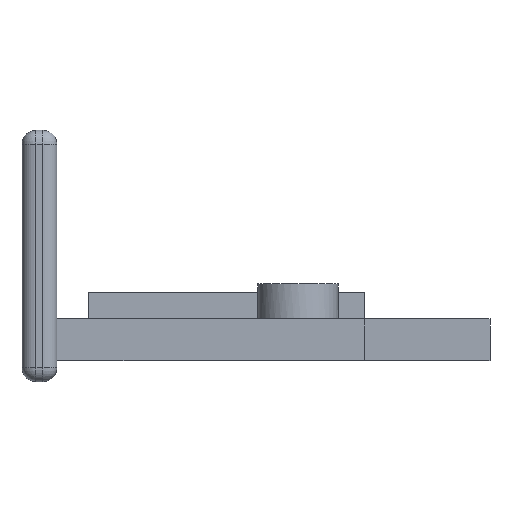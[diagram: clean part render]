
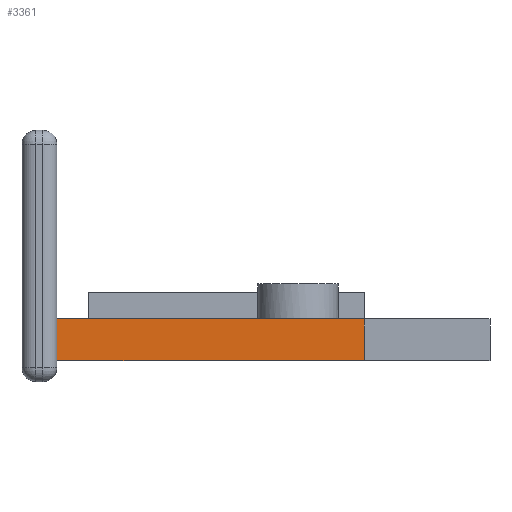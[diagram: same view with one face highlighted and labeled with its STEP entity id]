
A CAD part, front view. The second image highlights one B-rep face of the part: STEP entity #3361.
In plain terms, the highlighted planar face has unit normal (0, -1, 0).
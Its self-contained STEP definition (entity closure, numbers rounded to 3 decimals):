
#766 = PLANE('',#767);
#767 = AXIS2_PLACEMENT_3D('',#768,#769,#770);
#768 = CARTESIAN_POINT('',(-59.2,-6.7,29.8));
#769 = DIRECTION('',(1.,0.,0.));
#770 = DIRECTION('',(0.,0.,1.));
#1763 = VERTEX_POINT('',#1764);
#1764 = CARTESIAN_POINT('',(-59.2,-5.2,31.));
#1777 = PLANE('',#1778);
#1778 = AXIS2_PLACEMENT_3D('',#1779,#1780,#1781);
#1779 = CARTESIAN_POINT('',(-59.4,-5.2,31.));
#1780 = DIRECTION('',(0.,0.,1.));
#1781 = DIRECTION('',(1.,0.,0.));
#1789 = EDGE_CURVE('',#1763,#1790,#1792,.T.);
#1790 = VERTEX_POINT('',#1791);
#1791 = CARTESIAN_POINT('',(-59.2,-5.2,33.4));
#1792 = SURFACE_CURVE('',#1793,(#1797,#1803),.PCURVE_S1.);
#1793 = LINE('',#1794,#1795);
#1794 = CARTESIAN_POINT('',(-59.2,-5.2,30.4));
#1795 = VECTOR('',#1796,1.);
#1796 = DIRECTION('',(0.,0.,1.));
#1797 = PCURVE('',#766,#1798);
#1798 = DEFINITIONAL_REPRESENTATION('',(#1799),#1802);
#1799 = B_SPLINE_CURVE_WITH_KNOTS('',1,(#1800,#1801),.UNSPECIFIED.,.F.,
  .F.,(2,2),(0.6,3.),.PIECEWISE_BEZIER_KNOTS.);
#1800 = CARTESIAN_POINT('',(1.2,-1.5));
#1801 = CARTESIAN_POINT('',(3.6,-1.5));
#1802 = ( GEOMETRIC_REPRESENTATION_CONTEXT(2) 
PARAMETRIC_REPRESENTATION_CONTEXT() REPRESENTATION_CONTEXT('2D SPACE',''
  ) );
#1803 = PCURVE('',#1804,#1809);
#1804 = PLANE('',#1805);
#1805 = AXIS2_PLACEMENT_3D('',#1806,#1807,#1808);
#1806 = CARTESIAN_POINT('',(-59.4,-5.2,31.));
#1807 = DIRECTION('',(0.,1.,0.));
#1808 = DIRECTION('',(0.,0.,1.));
#1809 = DEFINITIONAL_REPRESENTATION('',(#1810),#1813);
#1810 = B_SPLINE_CURVE_WITH_KNOTS('',1,(#1811,#1812),.UNSPECIFIED.,.F.,
  .F.,(2,2),(0.6,3.),.PIECEWISE_BEZIER_KNOTS.);
#1811 = CARTESIAN_POINT('',(0.,0.2));
#1812 = CARTESIAN_POINT('',(2.4,0.2));
#1813 = ( GEOMETRIC_REPRESENTATION_CONTEXT(2) 
PARAMETRIC_REPRESENTATION_CONTEXT() REPRESENTATION_CONTEXT('2D SPACE',''
  ) );
#1830 = PLANE('',#1831);
#1831 = AXIS2_PLACEMENT_3D('',#1832,#1833,#1834);
#1832 = CARTESIAN_POINT('',(-59.4,-5.2,33.4));
#1833 = DIRECTION('',(0.,0.,1.));
#1834 = DIRECTION('',(1.,0.,0.));
#2221 = EDGE_CURVE('',#1763,#2222,#2224,.T.);
#2222 = VERTEX_POINT('',#2223);
#2223 = CARTESIAN_POINT('',(-41.6,-5.2,31.));
#2224 = SURFACE_CURVE('',#2225,(#2229,#2236),.PCURVE_S1.);
#2225 = LINE('',#2226,#2227);
#2226 = CARTESIAN_POINT('',(-59.4,-5.2,31.));
#2227 = VECTOR('',#2228,1.);
#2228 = DIRECTION('',(1.,0.,0.));
#2229 = PCURVE('',#1777,#2230);
#2230 = DEFINITIONAL_REPRESENTATION('',(#2231),#2235);
#2231 = LINE('',#2232,#2233);
#2232 = CARTESIAN_POINT('',(0.,0.));
#2233 = VECTOR('',#2234,1.);
#2234 = DIRECTION('',(1.,0.));
#2235 = ( GEOMETRIC_REPRESENTATION_CONTEXT(2) 
PARAMETRIC_REPRESENTATION_CONTEXT() REPRESENTATION_CONTEXT('2D SPACE',''
  ) );
#2236 = PCURVE('',#1804,#2237);
#2237 = DEFINITIONAL_REPRESENTATION('',(#2238),#2242);
#2238 = LINE('',#2239,#2240);
#2239 = CARTESIAN_POINT('',(0.,0.));
#2240 = VECTOR('',#2241,1.);
#2241 = DIRECTION('',(0.,1.));
#2242 = ( GEOMETRIC_REPRESENTATION_CONTEXT(2) 
PARAMETRIC_REPRESENTATION_CONTEXT() REPRESENTATION_CONTEXT('2D SPACE',''
  ) );
#2260 = PLANE('',#2261);
#2261 = AXIS2_PLACEMENT_3D('',#2262,#2263,#2264);
#2262 = CARTESIAN_POINT('',(-41.6,-5.2,31.));
#2263 = DIRECTION('',(1.,0.,0.));
#2264 = DIRECTION('',(0.,0.,1.));
#2824 = EDGE_CURVE('',#1790,#2825,#2827,.T.);
#2825 = VERTEX_POINT('',#2826);
#2826 = CARTESIAN_POINT('',(-41.6,-5.2,33.4));
#2827 = SURFACE_CURVE('',#2828,(#2832,#2839),.PCURVE_S1.);
#2828 = LINE('',#2829,#2830);
#2829 = CARTESIAN_POINT('',(-59.4,-5.2,33.4));
#2830 = VECTOR('',#2831,1.);
#2831 = DIRECTION('',(1.,0.,0.));
#2832 = PCURVE('',#1830,#2833);
#2833 = DEFINITIONAL_REPRESENTATION('',(#2834),#2838);
#2834 = LINE('',#2835,#2836);
#2835 = CARTESIAN_POINT('',(0.,0.));
#2836 = VECTOR('',#2837,1.);
#2837 = DIRECTION('',(1.,0.));
#2838 = ( GEOMETRIC_REPRESENTATION_CONTEXT(2) 
PARAMETRIC_REPRESENTATION_CONTEXT() REPRESENTATION_CONTEXT('2D SPACE',''
  ) );
#2839 = PCURVE('',#1804,#2840);
#2840 = DEFINITIONAL_REPRESENTATION('',(#2841),#2845);
#2841 = LINE('',#2842,#2843);
#2842 = CARTESIAN_POINT('',(2.4,0.));
#2843 = VECTOR('',#2844,1.);
#2844 = DIRECTION('',(0.,1.));
#2845 = ( GEOMETRIC_REPRESENTATION_CONTEXT(2) 
PARAMETRIC_REPRESENTATION_CONTEXT() REPRESENTATION_CONTEXT('2D SPACE',''
  ) );
#3361 = ADVANCED_FACE('',(#3362),#1804,.F.);
#3362 = FACE_BOUND('',#3363,.F.);
#3363 = EDGE_LOOP('',(#3364,#3365,#3366,#3367));
#3364 = ORIENTED_EDGE('',*,*,#2221,.F.);
#3365 = ORIENTED_EDGE('',*,*,#1789,.T.);
#3366 = ORIENTED_EDGE('',*,*,#2824,.T.);
#3367 = ORIENTED_EDGE('',*,*,#3368,.F.);
#3368 = EDGE_CURVE('',#2222,#2825,#3369,.T.);
#3369 = SURFACE_CURVE('',#3370,(#3374,#3381),.PCURVE_S1.);
#3370 = LINE('',#3371,#3372);
#3371 = CARTESIAN_POINT('',(-41.6,-5.2,31.));
#3372 = VECTOR('',#3373,1.);
#3373 = DIRECTION('',(0.,0.,1.));
#3374 = PCURVE('',#1804,#3375);
#3375 = DEFINITIONAL_REPRESENTATION('',(#3376),#3380);
#3376 = LINE('',#3377,#3378);
#3377 = CARTESIAN_POINT('',(0.,17.8));
#3378 = VECTOR('',#3379,1.);
#3379 = DIRECTION('',(1.,0.));
#3380 = ( GEOMETRIC_REPRESENTATION_CONTEXT(2) 
PARAMETRIC_REPRESENTATION_CONTEXT() REPRESENTATION_CONTEXT('2D SPACE',''
  ) );
#3381 = PCURVE('',#2260,#3382);
#3382 = DEFINITIONAL_REPRESENTATION('',(#3383),#3387);
#3383 = LINE('',#3384,#3385);
#3384 = CARTESIAN_POINT('',(0.,0.));
#3385 = VECTOR('',#3386,1.);
#3386 = DIRECTION('',(1.,0.));
#3387 = ( GEOMETRIC_REPRESENTATION_CONTEXT(2) 
PARAMETRIC_REPRESENTATION_CONTEXT() REPRESENTATION_CONTEXT('2D SPACE',''
  ) );
